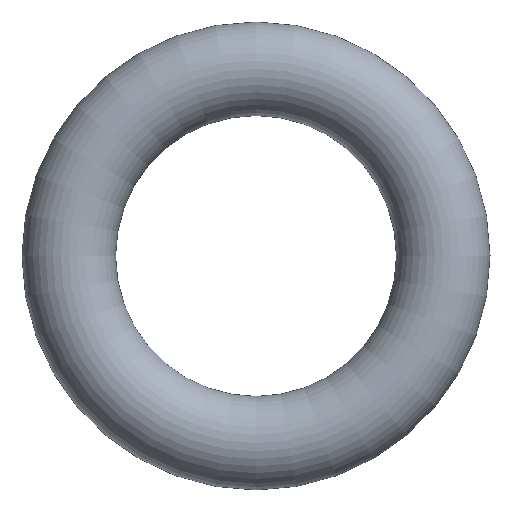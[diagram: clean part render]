
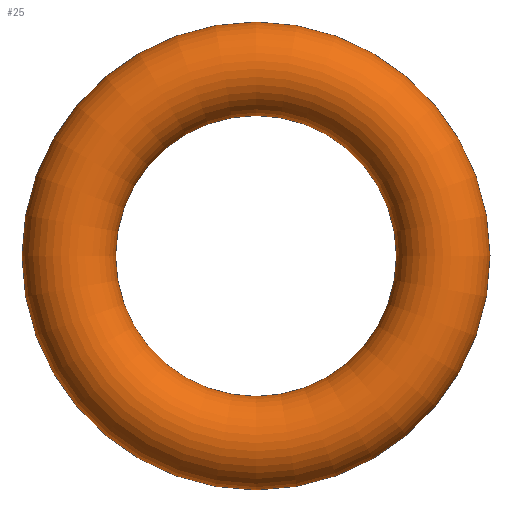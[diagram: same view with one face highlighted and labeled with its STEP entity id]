
A CAD part, top view. The second image highlights one B-rep face of the part: STEP entity #25.
In plain terms, the highlighted toroidal (fillet/blend) face has major radius 10 mm and minor radius 2.5 mm.
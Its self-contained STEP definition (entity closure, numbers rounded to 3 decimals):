
#25 = ADVANCED_FACE( '', (  ), #44, .T. );
#44 = TOROIDAL_SURFACE( '', #53, 10., 2.5 );
#53 = AXIS2_PLACEMENT_3D( '', #56, #57, #58 );
#56 = CARTESIAN_POINT( '', ( 0., 0., 0. ) );
#57 = DIRECTION( '', ( 0., 0., -1. ) );
#58 = DIRECTION( '', ( -1., 0., 0. ) );
